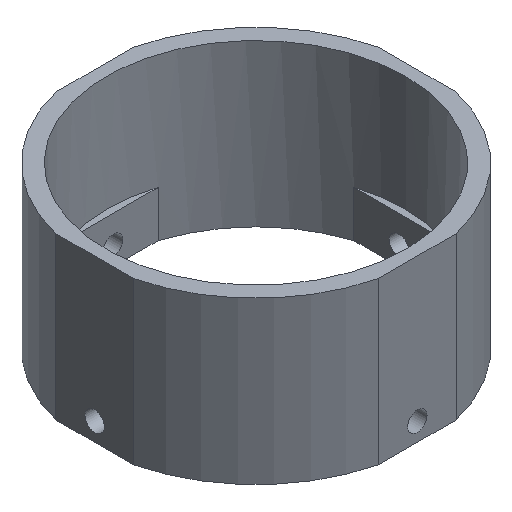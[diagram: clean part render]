
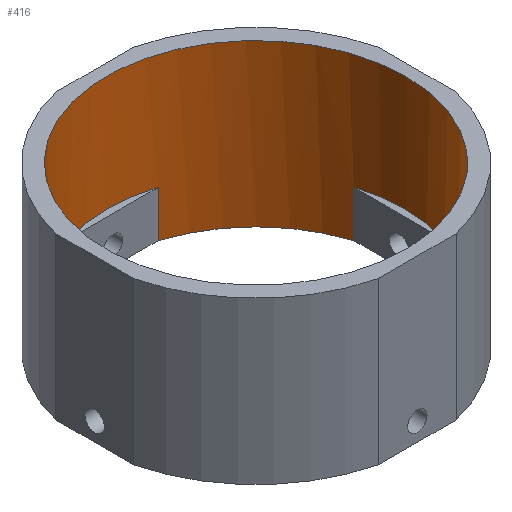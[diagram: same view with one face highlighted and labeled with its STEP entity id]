
A CAD part, isometric view. The second image highlights one B-rep face of the part: STEP entity #416.
In plain terms, the highlighted cylindrical face has radius 32.5 mm (diameter 65 mm), a full revolution.
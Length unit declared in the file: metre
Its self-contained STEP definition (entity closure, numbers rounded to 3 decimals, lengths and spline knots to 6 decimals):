
#12=CYLINDRICAL_SURFACE('',#456,0.0325);
#22=LINE('',#633,#54);
#24=LINE('',#637,#56);
#25=LINE('',#641,#57);
#27=LINE('',#646,#59);
#30=LINE('',#655,#62);
#32=LINE('',#659,#64);
#33=LINE('',#663,#65);
#35=LINE('',#668,#67);
#54=VECTOR('',#503,1.);
#56=VECTOR('',#505,1.);
#57=VECTOR('',#510,1.);
#59=VECTOR('',#512,1.);
#62=VECTOR('',#519,1.);
#64=VECTOR('',#521,1.);
#65=VECTOR('',#526,1.);
#67=VECTOR('',#528,1.);
#105=ORIENTED_EDGE('',*,*,#201,.F.);
#106=ORIENTED_EDGE('',*,*,#219,.F.);
#107=ORIENTED_EDGE('',*,*,#203,.T.);
#108=ORIENTED_EDGE('',*,*,#220,.F.);
#109=ORIENTED_EDGE('',*,*,#207,.F.);
#110=ORIENTED_EDGE('',*,*,#221,.F.);
#111=ORIENTED_EDGE('',*,*,#205,.T.);
#112=ORIENTED_EDGE('',*,*,#222,.F.);
#113=ORIENTED_EDGE('',*,*,#211,.F.);
#114=ORIENTED_EDGE('',*,*,#223,.F.);
#115=ORIENTED_EDGE('',*,*,#213,.T.);
#116=ORIENTED_EDGE('',*,*,#224,.F.);
#117=ORIENTED_EDGE('',*,*,#217,.F.);
#118=ORIENTED_EDGE('',*,*,#225,.F.);
#119=ORIENTED_EDGE('',*,*,#215,.T.);
#120=ORIENTED_EDGE('',*,*,#226,.F.);
#121=ORIENTED_EDGE('',*,*,#227,.T.);
#201=EDGE_CURVE('',#257,#259,#22,.T.);
#203=EDGE_CURVE('',#258,#260,#24,.T.);
#205=EDGE_CURVE('',#262,#263,#25,.T.);
#207=EDGE_CURVE('',#264,#265,#27,.T.);
#211=EDGE_CURVE('',#267,#269,#30,.T.);
#213=EDGE_CURVE('',#268,#270,#32,.T.);
#215=EDGE_CURVE('',#272,#273,#33,.T.);
#217=EDGE_CURVE('',#274,#275,#35,.T.);
#219=EDGE_CURVE('',#258,#257,#301,.T.);
#220=EDGE_CURVE('',#265,#260,#302,.T.);
#221=EDGE_CURVE('',#262,#264,#303,.T.);
#222=EDGE_CURVE('',#269,#263,#304,.T.);
#223=EDGE_CURVE('',#268,#267,#305,.T.);
#224=EDGE_CURVE('',#275,#270,#306,.T.);
#225=EDGE_CURVE('',#272,#274,#307,.T.);
#226=EDGE_CURVE('',#259,#273,#308,.T.);
#227=EDGE_CURVE('',#276,#276,#309,.T.);
#257=VERTEX_POINT('',#631);
#258=VERTEX_POINT('',#632);
#259=VERTEX_POINT('',#634);
#260=VERTEX_POINT('',#636);
#262=VERTEX_POINT('',#642);
#263=VERTEX_POINT('',#643);
#264=VERTEX_POINT('',#645);
#265=VERTEX_POINT('',#647);
#267=VERTEX_POINT('',#653);
#268=VERTEX_POINT('',#654);
#269=VERTEX_POINT('',#656);
#270=VERTEX_POINT('',#658);
#272=VERTEX_POINT('',#664);
#273=VERTEX_POINT('',#665);
#274=VERTEX_POINT('',#667);
#275=VERTEX_POINT('',#669);
#276=VERTEX_POINT('',#681);
#301=CIRCLE('',#457,0.0325);
#302=CIRCLE('',#458,0.0325);
#303=CIRCLE('',#459,0.0325);
#304=CIRCLE('',#460,0.0325);
#305=CIRCLE('',#461,0.0325);
#306=CIRCLE('',#462,0.0325);
#307=CIRCLE('',#463,0.0325);
#308=CIRCLE('',#464,0.0325);
#309=CIRCLE('',#465,0.0325);
#330=EDGE_LOOP('',(#105,#106,#107,#108,#109,#110,#111,#112,#113,#114,#115,
#116,#117,#118,#119,#120));
#331=EDGE_LOOP('',(#121));
#368=FACE_BOUND('',#330,.T.);
#369=FACE_BOUND('',#331,.T.);
#416=ADVANCED_FACE('',(#368,#369),#12,.F.);
#456=AXIS2_PLACEMENT_3D('',#671,#530,#531);
#457=AXIS2_PLACEMENT_3D('',#672,#532,#533);
#458=AXIS2_PLACEMENT_3D('',#673,#534,#535);
#459=AXIS2_PLACEMENT_3D('',#674,#536,#537);
#460=AXIS2_PLACEMENT_3D('',#675,#538,#539);
#461=AXIS2_PLACEMENT_3D('',#676,#540,#541);
#462=AXIS2_PLACEMENT_3D('',#677,#542,#543);
#463=AXIS2_PLACEMENT_3D('',#678,#544,#545);
#464=AXIS2_PLACEMENT_3D('',#679,#546,#547);
#465=AXIS2_PLACEMENT_3D('',#680,#548,#549);
#503=DIRECTION('',(0.,0.,-1.));
#505=DIRECTION('',(0.,0.,-1.));
#510=DIRECTION('',(0.,0.,-1.));
#512=DIRECTION('',(0.,0.,-1.));
#519=DIRECTION('',(0.,0.,-1.));
#521=DIRECTION('',(0.,0.,-1.));
#526=DIRECTION('',(0.,0.,-1.));
#528=DIRECTION('',(0.,0.,-1.));
#530=DIRECTION('',(0.,0.,-1.));
#531=DIRECTION('',(-1.,0.,0.));
#532=DIRECTION('',(0.,0.,1.));
#533=DIRECTION('',(1.,0.,0.));
#534=DIRECTION('',(0.,0.,1.));
#535=DIRECTION('',(1.,0.,0.));
#536=DIRECTION('',(0.,0.,1.));
#537=DIRECTION('',(1.,0.,0.));
#538=DIRECTION('',(0.,0.,1.));
#539=DIRECTION('',(1.,0.,0.));
#540=DIRECTION('',(0.,0.,1.));
#541=DIRECTION('',(1.,0.,0.));
#542=DIRECTION('',(0.,0.,1.));
#543=DIRECTION('',(1.,0.,0.));
#544=DIRECTION('',(0.,0.,1.));
#545=DIRECTION('',(1.,0.,0.));
#546=DIRECTION('',(0.,0.,1.));
#547=DIRECTION('',(1.,0.,0.));
#548=DIRECTION('',(0.,0.,1.));
#549=DIRECTION('',(1.,0.,0.));
#631=CARTESIAN_POINT('',(-0.00976,0.031,0.01));
#632=CARTESIAN_POINT('',(0.00976,0.031,0.01));
#633=CARTESIAN_POINT('',(-0.00976,0.031,0.035));
#634=CARTESIAN_POINT('',(-0.00976,0.031,0.));
#636=CARTESIAN_POINT('',(0.00976,0.031,0.));
#637=CARTESIAN_POINT('',(0.00976,0.031,0.035));
#641=CARTESIAN_POINT('',(0.031,-0.00976,0.035));
#642=CARTESIAN_POINT('',(0.031,-0.00976,0.01));
#643=CARTESIAN_POINT('',(0.031,-0.00976,0.));
#645=CARTESIAN_POINT('',(0.031,0.00976,0.01));
#646=CARTESIAN_POINT('',(0.031,0.00976,0.035));
#647=CARTESIAN_POINT('',(0.031,0.00976,0.));
#653=CARTESIAN_POINT('',(0.00976,-0.031,0.01));
#654=CARTESIAN_POINT('',(-0.00976,-0.031,0.01));
#655=CARTESIAN_POINT('',(0.00976,-0.031,0.035));
#656=CARTESIAN_POINT('',(0.00976,-0.031,0.));
#658=CARTESIAN_POINT('',(-0.00976,-0.031,0.));
#659=CARTESIAN_POINT('',(-0.00976,-0.031,0.035));
#663=CARTESIAN_POINT('',(-0.031,0.00976,0.035));
#664=CARTESIAN_POINT('',(-0.031,0.00976,0.01));
#665=CARTESIAN_POINT('',(-0.031,0.00976,0.));
#667=CARTESIAN_POINT('',(-0.031,-0.00976,0.01));
#668=CARTESIAN_POINT('',(-0.031,-0.00976,0.035));
#669=CARTESIAN_POINT('',(-0.031,-0.00976,0.));
#671=CARTESIAN_POINT('',(0.,0.,0.035));
#672=CARTESIAN_POINT('',(0.,0.,0.01));
#673=CARTESIAN_POINT('',(0.,0.,0.));
#674=CARTESIAN_POINT('',(0.,0.,0.01));
#675=CARTESIAN_POINT('',(0.,0.,0.));
#676=CARTESIAN_POINT('',(0.,0.,0.01));
#677=CARTESIAN_POINT('',(0.,0.,0.));
#678=CARTESIAN_POINT('',(0.,0.,0.01));
#679=CARTESIAN_POINT('',(0.,0.,0.));
#680=CARTESIAN_POINT('',(0.,0.,0.035));
#681=CARTESIAN_POINT('',(0.0325,0.,0.035));
